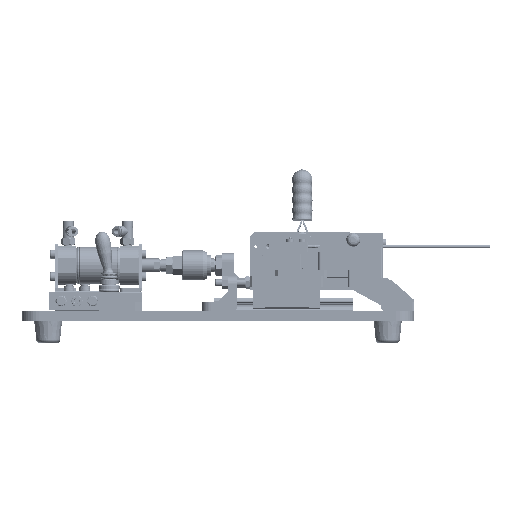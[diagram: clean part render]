
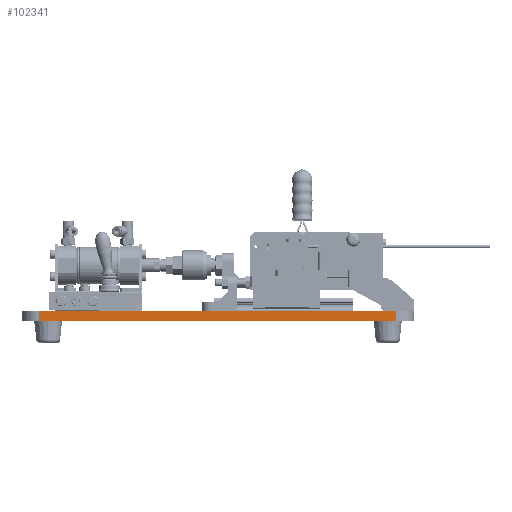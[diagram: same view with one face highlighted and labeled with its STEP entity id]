
A CAD part, top view. The second image highlights one B-rep face of the part: STEP entity #102341.
In plain terms, the highlighted planar face has unit normal (0, 0, 1).
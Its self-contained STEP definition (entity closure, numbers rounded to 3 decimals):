
#214 = CARTESIAN_POINT ( 'NONE',  ( 205., 12., 120. ) ) ;
#6774 = EDGE_CURVE ( 'NONE', #146477, #52456, #83602, .T. ) ;
#13551 = VECTOR ( 'NONE', #112031, 1000. ) ;
#15060 = CARTESIAN_POINT ( 'NONE',  ( -205., 12., 120. ) ) ;
#19815 = VECTOR ( 'NONE', #40960, 1000. ) ;
#21987 = EDGE_CURVE ( 'NONE', #52456, #119650, #115538, .T. ) ;
#23052 = CARTESIAN_POINT ( 'NONE',  ( -225., 12., 120. ) ) ;
#31765 = AXIS2_PLACEMENT_3D ( 'NONE', #23052, #35007, #118859 ) ;
#35007 = DIRECTION ( 'NONE',  ( 0., 0., -1. ) ) ;
#40960 = DIRECTION ( 'NONE',  ( 1., 0., 0. ) ) ;
#49768 = ORIENTED_EDGE ( 'NONE', *, *, #6774, .T. ) ;
#51860 = VECTOR ( 'NONE', #98382, 1000. ) ;
#52456 = VERTEX_POINT ( 'NONE', #83067 ) ;
#54305 = LINE ( 'NONE', #15060, #117995 ) ;
#58114 = PLANE ( 'NONE',  #31765 ) ;
#60608 = DIRECTION ( 'NONE',  ( 0., -1., 0. ) ) ;
#65075 = CARTESIAN_POINT ( 'NONE',  ( -225., 0., 120. ) ) ;
#66042 = CARTESIAN_POINT ( 'NONE',  ( -205., 0., 120. ) ) ;
#70919 = EDGE_CURVE ( 'NONE', #130204, #146477, #54305, .T. ) ;
#77648 = EDGE_LOOP ( 'NONE', ( #49768, #141144, #100870, #93916 ) ) ;
#83067 = CARTESIAN_POINT ( 'NONE',  ( 205., 0., 120. ) ) ;
#83602 = LINE ( 'NONE', #65075, #19815 ) ;
#87473 = CARTESIAN_POINT ( 'NONE',  ( -225., 12., 120. ) ) ;
#93916 = ORIENTED_EDGE ( 'NONE', *, *, #70919, .T. ) ;
#97848 = CARTESIAN_POINT ( 'NONE',  ( -205., 12., 120. ) ) ;
#98382 = DIRECTION ( 'NONE',  ( 0., 1., 0. ) ) ;
#100870 = ORIENTED_EDGE ( 'NONE', *, *, #108230, .F. ) ;
#102341 = ADVANCED_FACE ( 'NONE', ( #111085 ), #58114, .F. ) ;
#106166 = CARTESIAN_POINT ( 'NONE',  ( 205., 12., 120. ) ) ;
#108230 = EDGE_CURVE ( 'NONE', #130204, #119650, #109084, .T. ) ;
#109084 = LINE ( 'NONE', #87473, #13551 ) ;
#111085 = FACE_OUTER_BOUND ( 'NONE', #77648, .T. ) ;
#112031 = DIRECTION ( 'NONE',  ( 1., 0., 0. ) ) ;
#115538 = LINE ( 'NONE', #106166, #51860 ) ;
#117995 = VECTOR ( 'NONE', #60608, 1000. ) ;
#118859 = DIRECTION ( 'NONE',  ( -1., 0., 0. ) ) ;
#119650 = VERTEX_POINT ( 'NONE', #214 ) ;
#130204 = VERTEX_POINT ( 'NONE', #97848 ) ;
#141144 = ORIENTED_EDGE ( 'NONE', *, *, #21987, .T. ) ;
#146477 = VERTEX_POINT ( 'NONE', #66042 ) ;
